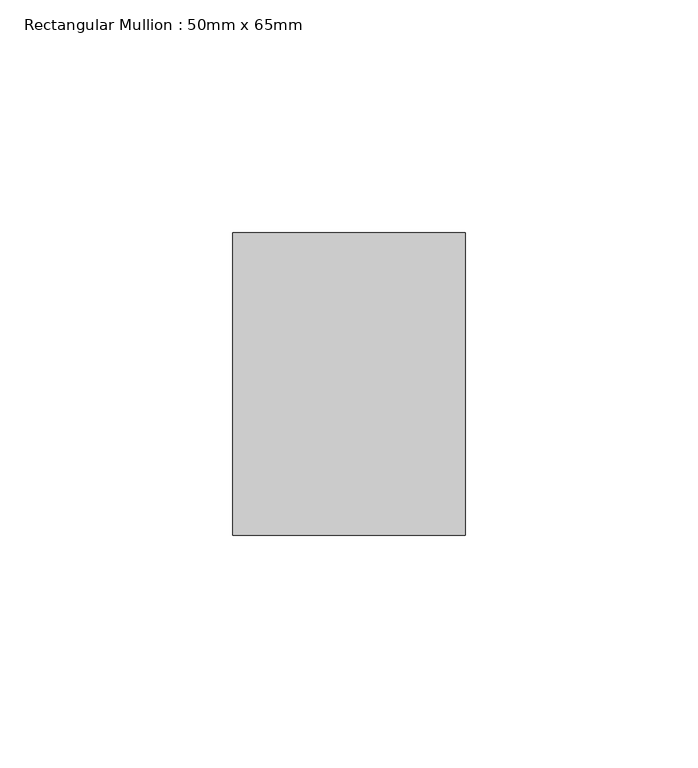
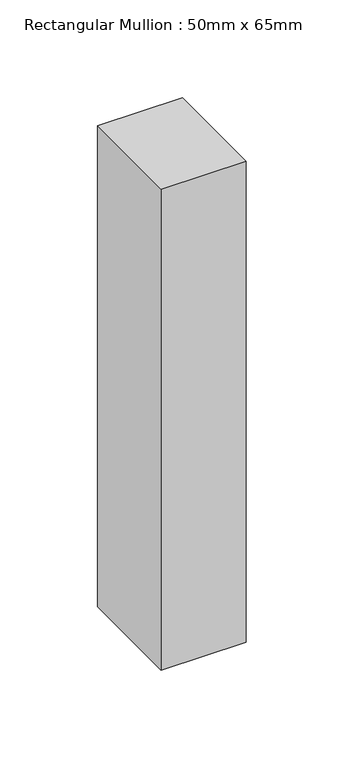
"""IFC4 building model written with IfcOpenShell, lengths in millimetres: member geometry, Rectangular Mullion : 50mm x 65mm."""

from ifc_helpers import new_model, si_unit, frame, origin, place, context, project, spatial, polyline, outline, extrude, source, transform, mapped, element, save


def rectangular_mullion_50mm_x_65mm_1b69131a(model_context):
    return source(origin(), model_context, "Body", "SweptSolid", [
        extrude(outline(polyline([(25.0, 32.5), (25.0, -32.5), (-25.0, -32.5), (-25.0, 32.5), (25.0, 32.5)])), frame((0.0, 0.0, -300.0), z_axis=(0.0, 0.0, 1.0), x_axis=(1.0, 0.0, 0.0)), (0.0, 0.0, 1.0), 300.0),
    ])


if __name__ == "__main__":
    model = new_model("IFC4")
    model_context = context("Model", 3, world=origin())
    ifc_project = project(units=[si_unit("LENGTHUNIT", "METRE", prefix="MILLI")], contexts=[model_context])
    site = spatial("IfcSite", under=ifc_project)
    building = spatial("IfcBuilding", under=site)
    placement = place(None, origin())
    rectangular_mullion_50mm_x_65mm_shape = rectangular_mullion_50mm_x_65mm_1b69131a(model_context)
    element("IfcMember", 1, ObjectType="Rectangular Mullion : 50mm x 65mm", at=placement, inside=building, context=model_context, shape_type="MappedRepresentation", body=[
        mapped(rectangular_mullion_50mm_x_65mm_shape, transform((0.0, 0.0, 0.0), x_axis=(1.0, 0.0, 0.0), y_axis=(0.0, 1.0, 0.0), z_axis=(0.0, 0.0, 1.0))),
    ])
    save(model, "model.ifc")
